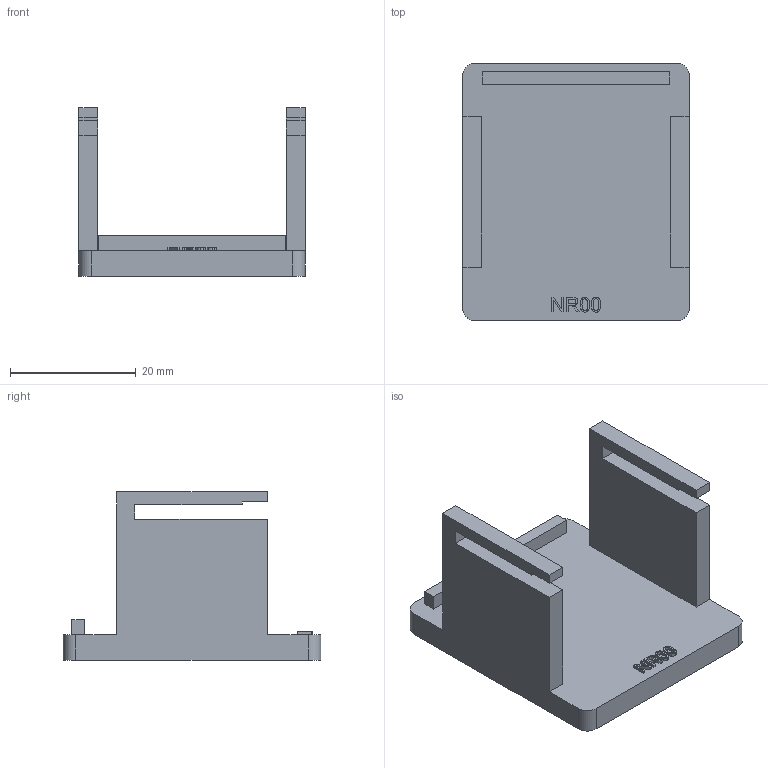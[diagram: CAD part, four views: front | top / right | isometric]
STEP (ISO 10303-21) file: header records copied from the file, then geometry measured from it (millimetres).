
FILE_DESCRIPTION(('Open CASCADE Model'),'2;1');
FILE_NAME('Open CASCADE Shape Model','1970-01-01T00:00:00',('Author'),( 'Open CASCADE'),'Open CASCADE STEP processor 7.8','Open CASCADE 7.8' ,'Unknown');
FILE_SCHEMA(('AUTOMOTIVE_DESIGN { 1 0 10303 214 1 1 1 1 }'));
Length unit declared in the file: millimetre
Products named in the file (2): Open CASCADE STEP translator 7.8 19; NR00D neck storage shoe
Assembly tree (1 placements, depth 2):
  Open CASCADE STEP translator 7.8 19
    NR00D neck storage shoe
Bounding box: 36 x 41 x 26.73 mm (x, y, z)
Volume: 8998.8 mm3; surface area: 6224.6 mm2
Topology: 1 solids, 1 shells, 119 faces, 327 edges, 218 vertices
Faces by surface type: plane 59, extrusion 56, cylinder 4
Entity records: 8917 total; most frequent: CARTESIAN_POINT 3014, DIRECTION 789, ORIENTED_EDGE 654, PCURVE 654, DEFINITIONAL_REPRESENTATION 654, VECTOR 637, LINE 581, B_SPLINE_CURVE_WITH_KNOTS 440
